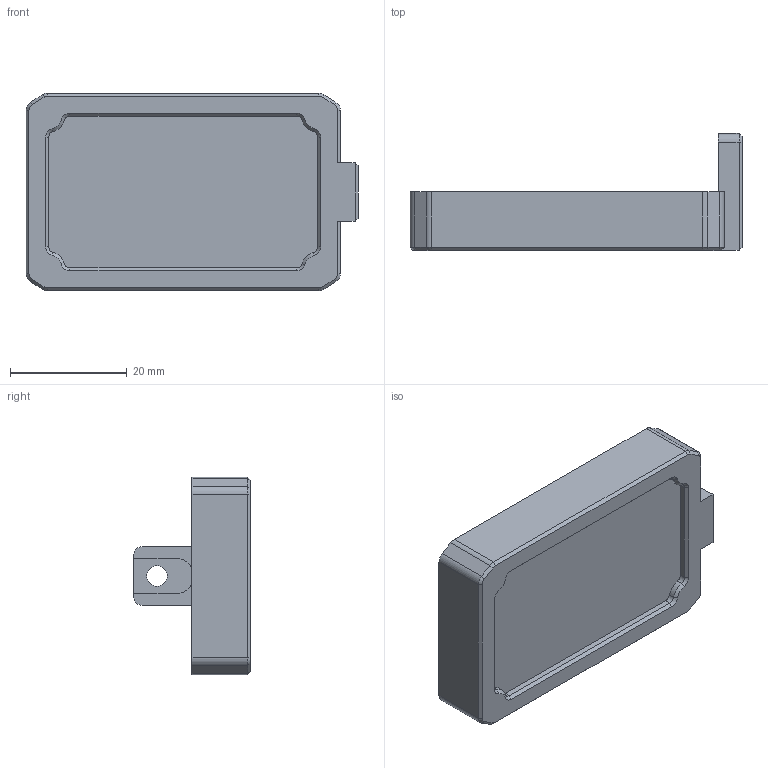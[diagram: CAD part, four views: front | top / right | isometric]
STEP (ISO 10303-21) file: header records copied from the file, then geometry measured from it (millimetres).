
FILE_DESCRIPTION((''),'2;1');
FILE_NAME('PRT0001','2026-02-09T17:15:31',('yangxiaobing6'),(''),'CREO PARAMETRIC BY PTC INC, 2020044','CREO PARAMETRIC BY PTC INC, 2020044','');
FILE_SCHEMA(('CONFIG_CONTROL_DESIGN','SHAPE_APPEARANCE_LAYERS_GROUPS'));
Length unit declared in the file: millimetre
Products named in the file (1): PRT0001
Bounding box: 56.8 x 20 x 33.8 mm (x, y, z)
Volume: 6149.9 mm3; surface area: 7499.3 mm2
Topology: 1 solids, 1 shells, 153 faces, 405 edges, 256 vertices
Faces by surface type: plane 71, cylinder 60, cone 22
Entity records: 6397 total; most frequent: DIRECTION 857, CARTESIAN_POINT 837, ORIENTED_EDGE 810, COLOUR_RGB 525, EDGE_CURVE 405, AXIS2_PLACEMENT_3D 301, VERTEX_POINT 256, VECTOR 255
